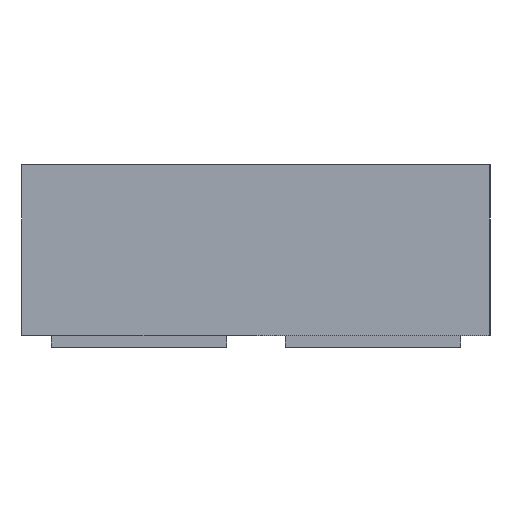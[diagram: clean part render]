
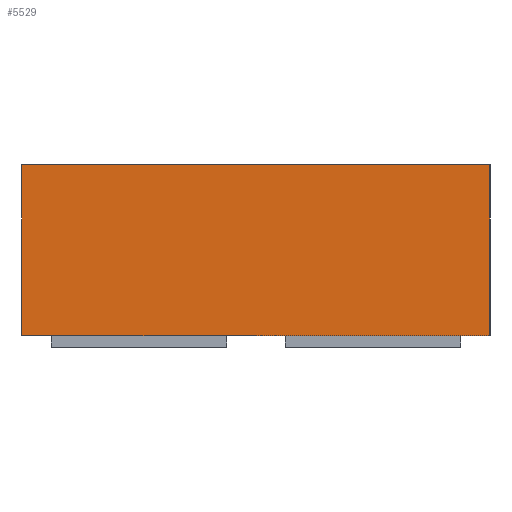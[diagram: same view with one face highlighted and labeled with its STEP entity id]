
A CAD part, left-side view. The second image highlights one B-rep face of the part: STEP entity #5529.
In plain terms, the highlighted planar face has unit normal (-1, 0, 0).
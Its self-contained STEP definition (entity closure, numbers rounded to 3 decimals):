
#198 = VECTOR ( 'NONE', #5731, 1000. ) ;
#797 = CARTESIAN_POINT ( 'NONE',  ( -1.45, 1., -0.73 ) ) ;
#862 = PLANE ( 'NONE',  #4816 ) ;
#1766 = VECTOR ( 'NONE', #7577, 1000. ) ;
#2005 = EDGE_CURVE ( 'NONE', #12308, #6425, #4483, .T. ) ;
#2476 = ORIENTED_EDGE ( 'NONE', *, *, #8149, .F. ) ;
#2966 = FACE_OUTER_BOUND ( 'NONE', #6095, .T. ) ;
#3497 = VECTOR ( 'NONE', #5536, 1000. ) ;
#3688 = EDGE_CURVE ( 'NONE', #8388, #6425, #4155, .T. ) ;
#3715 = CARTESIAN_POINT ( 'NONE',  ( -1.45, -1., 0. ) ) ;
#4155 = LINE ( 'NONE', #11979, #10155 ) ;
#4419 = CARTESIAN_POINT ( 'NONE',  ( -1.45, 1., 0. ) ) ;
#4483 = LINE ( 'NONE', #4419, #3497 ) ;
#4816 = AXIS2_PLACEMENT_3D ( 'NONE', #7836, #11855, #9995 ) ;
#5068 = DIRECTION ( 'NONE',  ( 0., 0., 1. ) ) ;
#5529 = ADVANCED_FACE ( 'NONE', ( #2966 ), #862, .T. ) ;
#5536 = DIRECTION ( 'NONE',  ( 0., -1., 0. ) ) ;
#5731 = DIRECTION ( 'NONE',  ( 0., 0., 1. ) ) ;
#6095 = EDGE_LOOP ( 'NONE', ( #9870, #2476, #6870, #10620 ) ) ;
#6425 = VERTEX_POINT ( 'NONE', #3715 ) ;
#6451 = CARTESIAN_POINT ( 'NONE',  ( -1.45, -1., -0.73 ) ) ;
#6870 = ORIENTED_EDGE ( 'NONE', *, *, #10514, .T. ) ;
#7577 = DIRECTION ( 'NONE',  ( 0., -1., 0. ) ) ;
#7836 = CARTESIAN_POINT ( 'NONE',  ( -1.45, 1., -0.73 ) ) ;
#8149 = EDGE_CURVE ( 'NONE', #8897, #12308, #11970, .T. ) ;
#8388 = VERTEX_POINT ( 'NONE', #6451 ) ;
#8897 = VERTEX_POINT ( 'NONE', #12458 ) ;
#9282 = CARTESIAN_POINT ( 'NONE',  ( -1.45, 1., 0. ) ) ;
#9667 = CARTESIAN_POINT ( 'NONE',  ( -1.45, 1., -0.73 ) ) ;
#9870 = ORIENTED_EDGE ( 'NONE', *, *, #2005, .F. ) ;
#9995 = DIRECTION ( 'NONE',  ( 0., -1., 0. ) ) ;
#10155 = VECTOR ( 'NONE', #5068, 1000. ) ;
#10514 = EDGE_CURVE ( 'NONE', #8897, #8388, #10656, .T. ) ;
#10620 = ORIENTED_EDGE ( 'NONE', *, *, #3688, .T. ) ;
#10656 = LINE ( 'NONE', #9667, #1766 ) ;
#11855 = DIRECTION ( 'NONE',  ( -1., 0., 0. ) ) ;
#11970 = LINE ( 'NONE', #797, #198 ) ;
#11979 = CARTESIAN_POINT ( 'NONE',  ( -1.45, -1., -0.73 ) ) ;
#12308 = VERTEX_POINT ( 'NONE', #9282 ) ;
#12458 = CARTESIAN_POINT ( 'NONE',  ( -1.45, 1., -0.73 ) ) ;
